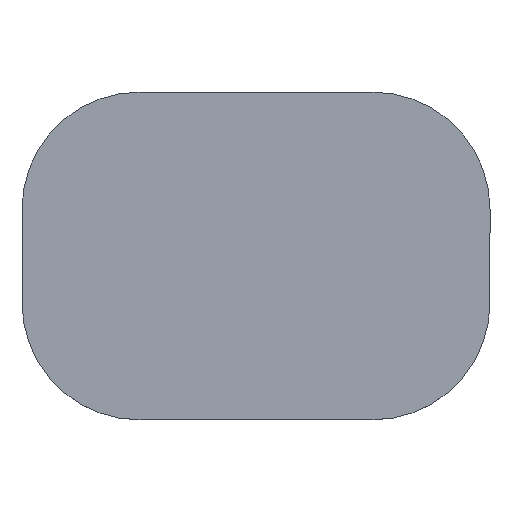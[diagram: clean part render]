
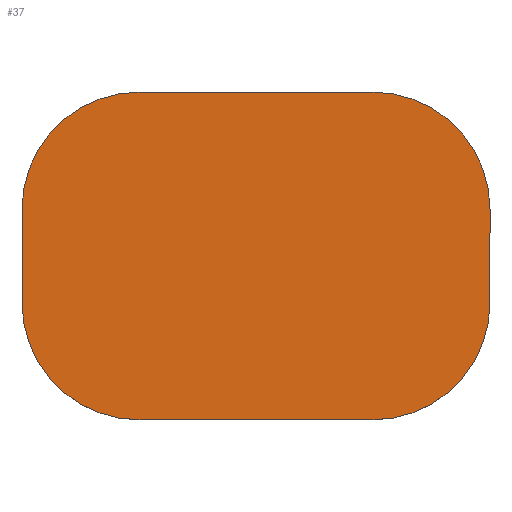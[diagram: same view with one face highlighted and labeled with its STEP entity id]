
A CAD part, top view. The second image highlights one B-rep face of the part: STEP entity #37.
In plain terms, the highlighted planar face has unit normal (0, 0, 1).
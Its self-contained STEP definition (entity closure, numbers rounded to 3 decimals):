
#5 = CARTESIAN_POINT ( 'NONE',  ( 5., -2., 0. ) ) ;
#8 = CARTESIAN_POINT ( 'NONE',  ( 5., -7., 0. ) ) ;
#9 = EDGE_CURVE ( 'NONE', #312, #258, #179, .T. ) ;
#20 = DIRECTION ( 'NONE',  ( 0., 0., 1. ) ) ;
#21 = LINE ( 'NONE', #330, #300 ) ;
#30 = DIRECTION ( 'NONE',  ( 0., 0., 1. ) ) ;
#35 = CARTESIAN_POINT ( 'NONE',  ( 5., 7., 0. ) ) ;
#37 = ADVANCED_FACE ( 'NONE', ( #108 ), #85, .T. ) ;
#45 = DIRECTION ( 'NONE',  ( 0., 0., 1. ) ) ;
#56 = EDGE_CURVE ( 'NONE', #258, #183, #310, .T. ) ;
#58 = ORIENTED_EDGE ( 'NONE', *, *, #334, .T. ) ;
#68 = EDGE_CURVE ( 'NONE', #89, #339, #21, .T. ) ;
#72 = CARTESIAN_POINT ( 'NONE',  ( 10., -2., 0. ) ) ;
#76 = DIRECTION ( 'NONE',  ( 1., 0., 0. ) ) ;
#77 = ORIENTED_EDGE ( 'NONE', *, *, #68, .T. ) ;
#80 = VECTOR ( 'NONE', #191, 1000. ) ;
#82 = EDGE_CURVE ( 'NONE', #110, #312, #232, .T. ) ;
#83 = VERTEX_POINT ( 'NONE', #249 ) ;
#84 = VECTOR ( 'NONE', #222, 1000. ) ;
#85 = PLANE ( 'NONE',  #117 ) ;
#87 = CARTESIAN_POINT ( 'NONE',  ( -10., -2., 0. ) ) ;
#89 = VERTEX_POINT ( 'NONE', #72 ) ;
#90 = CARTESIAN_POINT ( 'NONE',  ( -5., -7., 0. ) ) ;
#96 = AXIS2_PLACEMENT_3D ( 'NONE', #128, #20, #145 ) ;
#106 = AXIS2_PLACEMENT_3D ( 'NONE', #5, #162, #321 ) ;
#108 = FACE_OUTER_BOUND ( 'NONE', #264, .T. ) ;
#110 = VERTEX_POINT ( 'NONE', #247 ) ;
#113 = VERTEX_POINT ( 'NONE', #121 ) ;
#114 = ORIENTED_EDGE ( 'NONE', *, *, #9, .T. ) ;
#117 = AXIS2_PLACEMENT_3D ( 'NONE', #225, #45, #198 ) ;
#121 = CARTESIAN_POINT ( 'NONE',  ( 5., 7., 0. ) ) ;
#124 = CARTESIAN_POINT ( 'NONE',  ( -5., -7., 0. ) ) ;
#125 = CARTESIAN_POINT ( 'NONE',  ( 10., 2., 0. ) ) ;
#128 = CARTESIAN_POINT ( 'NONE',  ( -5., -2., 0. ) ) ;
#129 = LINE ( 'NONE', #35, #80 ) ;
#141 = AXIS2_PLACEMENT_3D ( 'NONE', #209, #30, #185 ) ;
#142 = DIRECTION ( 'NONE',  ( 0., 1., 0. ) ) ;
#143 = DIRECTION ( 'NONE',  ( 1., 0., 0. ) ) ;
#145 = DIRECTION ( 'NONE',  ( 1., 0., 0. ) ) ;
#153 = VECTOR ( 'NONE', #143, 1000. ) ;
#162 = DIRECTION ( 'NONE',  ( 0., 0., 1. ) ) ;
#172 = CIRCLE ( 'NONE', #296, 5. ) ;
#178 = CARTESIAN_POINT ( 'NONE',  ( -5., 2., 0. ) ) ;
#179 = CIRCLE ( 'NONE', #96, 5. ) ;
#180 = CIRCLE ( 'NONE', #141, 5. ) ;
#183 = VERTEX_POINT ( 'NONE', #8 ) ;
#185 = DIRECTION ( 'NONE',  ( 1., 0., 0. ) ) ;
#191 = DIRECTION ( 'NONE',  ( -1., 0., 0. ) ) ;
#198 = DIRECTION ( 'NONE',  ( 1., 0., 0. ) ) ;
#209 = CARTESIAN_POINT ( 'NONE',  ( 5., 2., 0. ) ) ;
#222 = DIRECTION ( 'NONE',  ( 0., -1., 0. ) ) ;
#225 = CARTESIAN_POINT ( 'NONE',  ( 5., 2., 0. ) ) ;
#232 = LINE ( 'NONE', #302, #84 ) ;
#234 = ORIENTED_EDGE ( 'NONE', *, *, #237, .T. ) ;
#237 = EDGE_CURVE ( 'NONE', #183, #89, #290, .T. ) ;
#244 = EDGE_CURVE ( 'NONE', #113, #83, #129, .T. ) ;
#247 = CARTESIAN_POINT ( 'NONE',  ( -10., 2., 0. ) ) ;
#249 = CARTESIAN_POINT ( 'NONE',  ( -5., 7., 0. ) ) ;
#258 = VERTEX_POINT ( 'NONE', #90 ) ;
#264 = EDGE_LOOP ( 'NONE', ( #271, #324, #58, #282, #114, #319, #234, #77 ) ) ;
#271 = ORIENTED_EDGE ( 'NONE', *, *, #327, .T. ) ;
#282 = ORIENTED_EDGE ( 'NONE', *, *, #82, .T. ) ;
#290 = CIRCLE ( 'NONE', #106, 5. ) ;
#296 = AXIS2_PLACEMENT_3D ( 'NONE', #178, #332, #76 ) ;
#300 = VECTOR ( 'NONE', #142, 1000. ) ;
#302 = CARTESIAN_POINT ( 'NONE',  ( -10., 2., 0. ) ) ;
#310 = LINE ( 'NONE', #124, #153 ) ;
#312 = VERTEX_POINT ( 'NONE', #87 ) ;
#319 = ORIENTED_EDGE ( 'NONE', *, *, #56, .T. ) ;
#321 = DIRECTION ( 'NONE',  ( 1., 0., 0. ) ) ;
#324 = ORIENTED_EDGE ( 'NONE', *, *, #244, .T. ) ;
#327 = EDGE_CURVE ( 'NONE', #339, #113, #180, .T. ) ;
#330 = CARTESIAN_POINT ( 'NONE',  ( 10., -2., 0. ) ) ;
#332 = DIRECTION ( 'NONE',  ( 0., 0., 1. ) ) ;
#334 = EDGE_CURVE ( 'NONE', #83, #110, #172, .T. ) ;
#339 = VERTEX_POINT ( 'NONE', #125 ) ;
